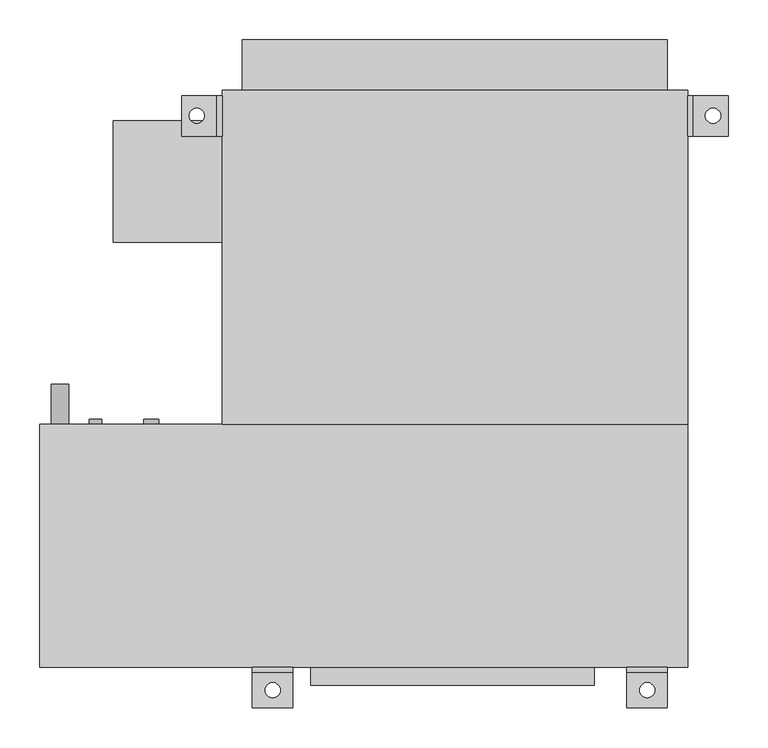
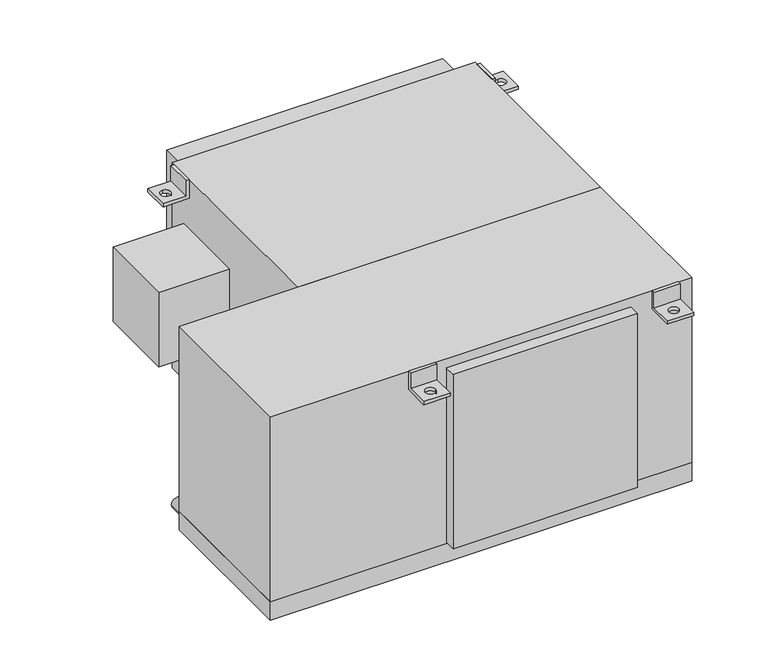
"""IFC4 building model written with IfcOpenShell, lengths in millimetres: proxy geometry, Concealed_High_Capacity_Horizontal_Fan_Coil_Unit_With_Plenum_-_42DCA_-_CARRIER_-_4-Pipe_ValveEnclosure_LH_2022 : Size 06 - 277v/60Hz/1Ph - 6/2 Coil."""

from ifc_helpers import new_model, si_unit, point, frame, frame_2d, origin, place, context, project, spatial, polyline, circle_curve, trimmed, segment, composite_curve, outline, extrude, source, transform, mapped, element, save
from ifc_brep_helpers import plane_surface, revolved_surface, advanced_brep


def mechanical_equipment_28140981(model_context):
    return source(origin(), model_context, "Body", "SolidModel", [
        advanced_brep(
        [(419.1, -390.525, 0.0), (419.1, -396.875, 0.0), (419.1, -396.875, -31.75), (419.1, -441.325, -31.75), (419.1, -441.325, -38.1), (419.1, -390.525, -38.1), (368.3, -390.525, 0.0), (368.3, -390.525, -38.1), (368.3, -441.325, -38.1), (368.3, -441.325, -31.75), (368.3, -396.875, -31.75), (368.3, -396.875, 0.0), (384.175, -419.1, -31.75), (403.225, -419.1, -31.75), (403.225, -419.1, -38.1), (384.175, -419.1, -38.1)],
        [
            (0, 1),
            (1, 2),
            (2, 3),
            (3, 4),
            (4, 5),
            (5, 0),
            (6, 7),
            (7, 8),
            (8, 9),
            (9, 10),
            (10, 11),
            (11, 6),
            (0, 6),
            (11, 1),
            (10, 2),
            (9, 3),
            (12, 13, circle_curve(frame((393.7, -419.1, -31.75), z_axis=(0.0, 0.0, -1.0), x_axis=(1.0, 0.0, 0.0)), 9.525)),
            (13, 12, circle_curve(frame((393.7, -419.1, -31.75), z_axis=(0.0, 0.0, -1.0), x_axis=(1.0, 0.0, 0.0)), 9.525)),
            (8, 4),
            (7, 5),
            (14, 15, circle_curve(frame((393.7, -419.1, -38.1), z_axis=(0.0, 0.0, 1.0), x_axis=(1.0, 0.0, 0.0)), 9.525)),
            (15, 14, circle_curve(frame((393.7, -419.1, -38.1), z_axis=(0.0, 0.0, 1.0), x_axis=(1.0, 0.0, 0.0)), 9.525)),
            (12, 15),
            (14, 13),
        ],
        [
            plane_surface(frame((419.1, -396.875, 0.0), z_axis=(1.0, 0.0, 0.0), x_axis=(0.0, -1.0, 0.0))),
            plane_surface(frame((368.3, -396.875, 0.0), z_axis=(-1.0, 0.0, 0.0), x_axis=(0.0, 1.0, 0.0))),
            plane_surface(frame((419.1, -390.525, 0.0), z_axis=(0.0, 0.0, 1.0), x_axis=(-1.0, 0.0, 0.0))),
            plane_surface(frame((419.1, -396.875, 0.0), z_axis=(0.0, -1.0, 0.0), x_axis=(-1.0, 0.0, 0.0))),
            plane_surface(frame((419.1, -396.875, -31.75), z_axis=(0.0, 0.0, 1.0), x_axis=(-1.0, 0.0, 0.0))),
            plane_surface(frame((419.1, -441.325, -31.75), z_axis=(0.0, -1.0, 0.0), x_axis=(-1.0, 0.0, 0.0))),
            plane_surface(frame((419.1, -441.325, -38.1), z_axis=(0.0, 0.0, -1.0), x_axis=(-1.0, 0.0, 0.0))),
            plane_surface(frame((419.1, -390.525, -38.1), z_axis=(0.0, 1.0, 0.0), x_axis=(-1.0, 0.0, 0.0))),
            revolved_surface(polyline([(403.22499999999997, -419.1, -38.1), (403.22499999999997, -419.1, -31.75)]), (393.7, -419.1, -31.75), (0.0, 0.0, -1.0)),
        ],
        [
            (0, [[1, 2, 3, 4, 5, 6]]),
            (1, [[7, 8, 9, 10, 11, 12]]),
            (2, [[-1, 13, -12, 14]]),
            (3, [[-2, -14, -11, 15]]),
            (4, [[-3, -15, -10, 16], [17, 18]]),
            (5, [[-4, -16, -9, 19]]),
            (6, [[-5, -19, -8, 20], [21, 22]]),
            (7, [[-6, -20, -7, -13]]),
            (8, [[23, -21, 24, -17]]),
            (8, [[-23, -18, -24, -22]]),
        ],
    ),
        advanced_brep(
        [(-50.8, -390.525, -38.1), (-50.8, -390.525, 0.0), (-50.8, -396.875, 0.0), (-50.8, -396.875, -31.75), (-50.8, -441.325, -31.75), (-50.8, -441.325, -38.1), (-101.6, -390.525, -38.1), (-101.6, -441.325, -38.1), (-101.6, -441.325, -31.75), (-101.6, -396.875, -31.75), (-101.6, -396.875, 0.0), (-101.6, -390.525, 0.0), (-85.725, -419.1, -31.75), (-66.675, -419.1, -31.75), (-66.675, -419.1, -38.1), (-85.725, -419.1, -38.1)],
        [
            (0, 1),
            (1, 2),
            (2, 3),
            (3, 4),
            (4, 5),
            (5, 0),
            (6, 7),
            (7, 8),
            (8, 9),
            (9, 10),
            (10, 11),
            (11, 6),
            (0, 6),
            (11, 1),
            (10, 2),
            (9, 3),
            (8, 4),
            (12, 13, circle_curve(frame((-76.2, -419.1, -31.75), z_axis=(0.0, 0.0, -1.0), x_axis=(1.0, 0.0, 0.0)), 9.525)),
            (13, 12, circle_curve(frame((-76.2, -419.1, -31.75), z_axis=(0.0, 0.0, -1.0), x_axis=(1.0, 0.0, 0.0)), 9.525)),
            (7, 5),
            (14, 15, circle_curve(frame((-76.2, -419.1, -38.1), z_axis=(0.0, 0.0, 1.0), x_axis=(1.0, 0.0, 0.0)), 9.525)),
            (15, 14, circle_curve(frame((-76.2, -419.1, -38.1), z_axis=(0.0, 0.0, 1.0), x_axis=(1.0, 0.0, 0.0)), 9.525)),
            (12, 15),
            (14, 13),
        ],
        [
            plane_surface(frame((-50.8, -390.525, -38.1), z_axis=(1.0, 0.0, 0.0), x_axis=(0.0, 0.0, 1.0))),
            plane_surface(frame((-101.6, -390.525, -38.1), z_axis=(-1.0, 0.0, 0.0), x_axis=(0.0, 0.0, -1.0))),
            plane_surface(frame((-50.8, -390.525, -38.1), z_axis=(0.0, 1.0, 0.0), x_axis=(-1.0, 0.0, 0.0))),
            plane_surface(frame((-50.8, -390.525, 0.0), z_axis=(0.0, 0.0, 1.0), x_axis=(-1.0, 0.0, 0.0))),
            plane_surface(frame((-50.8, -396.875, 0.0), z_axis=(0.0, -1.0, 0.0), x_axis=(-1.0, 0.0, 0.0))),
            plane_surface(frame((-50.8, -396.875, -31.75), z_axis=(0.0, 0.0, 1.0), x_axis=(-1.0, 0.0, 0.0))),
            plane_surface(frame((-50.8, -441.325, -31.75), z_axis=(0.0, -1.0, 0.0), x_axis=(-1.0, 0.0, 0.0))),
            plane_surface(frame((-50.8, -441.325, -38.1), z_axis=(0.0, 0.0, -1.0), x_axis=(-1.0, 0.0, 0.0))),
            revolved_surface(polyline([(-66.675, -419.1, -38.1), (-66.675, -419.1, -31.75)]), (-76.2, -419.1, -31.75), (0.0, 0.0, -1.0)),
        ],
        [
            (0, [[1, 2, 3, 4, 5, 6]]),
            (1, [[7, 8, 9, 10, 11, 12]]),
            (2, [[-1, 13, -12, 14]]),
            (3, [[-2, -14, -11, 15]]),
            (4, [[-3, -15, -10, 16]]),
            (5, [[-4, -16, -9, 17], [18, 19]]),
            (6, [[-5, -17, -8, 20]]),
            (7, [[-6, -20, -7, -13], [21, 22]]),
            (8, [[23, -21, 24, -18]]),
            (8, [[-23, -19, -24, -22]]),
        ],
    ),
        extrude(outline(composite_curve([segment(trimmed(circle_curve(frame_2d((-400.05, -342.9)), 11.1125), [point((-400.05, -354.0125))], [point((-400.05, -331.7875))], False, "CARTESIAN"), True, "CONTINUOUS"), segment(trimmed(circle_curve(frame_2d((-400.05, -342.9)), 11.1125), [point((-400.05, -331.7875))], [point((-400.05, -354.0125))], False, "CARTESIAN"), True, "CONTINUOUS")], self_intersect=False)), frame((0.0, -85.725, 0.0), z_axis=(0.0, 1.0, 0.0), x_axis=(0.0, 0.0, 1.0)), (0.0, 0.0, 1.0), 50.8),
        extrude(outline(composite_curve([segment(trimmed(circle_curve(frame_2d((-44.45, -228.6)), 9.525), [point((-44.45, -238.125))], [point((-44.45, -219.075))], False, "CARTESIAN"), True, "CONTINUOUS"), segment(trimmed(circle_curve(frame_2d((-44.45, -228.6)), 9.525), [point((-44.45, -219.075))], [point((-44.45, -238.125))], False, "CARTESIAN"), True, "CONTINUOUS")], self_intersect=False)), frame((0.0, -85.725, 0.0), z_axis=(0.0, 1.0, 0.0), x_axis=(0.0, 0.0, 1.0)), (0.0, 0.0, 1.0), 6.35),
        extrude(outline(composite_curve([segment(trimmed(circle_curve(frame_2d((-276.225, -228.6)), 9.525), [point((-276.225, -238.125))], [point((-276.225, -219.075))], False, "CARTESIAN"), True, "CONTINUOUS"), segment(trimmed(circle_curve(frame_2d((-276.225, -228.6)), 9.525), [point((-276.225, -219.075))], [point((-276.225, -238.125))], False, "CARTESIAN"), True, "CONTINUOUS")], self_intersect=False)), frame((0.0, -85.725, 0.0), z_axis=(0.0, 1.0, 0.0), x_axis=(0.0, 0.0, 1.0)), (0.0, 0.0, 1.0), 6.35),
        extrude(outline(composite_curve([segment(trimmed(circle_curve(frame_2d((-69.85, -298.45)), 7.9375), [point((-69.85, -306.3875))], [point((-69.85, -290.5125))], False, "CARTESIAN"), True, "CONTINUOUS"), segment(trimmed(circle_curve(frame_2d((-69.85, -298.45)), 7.9375), [point((-69.85, -290.5125))], [point((-69.85, -306.3875))], False, "CARTESIAN"), True, "CONTINUOUS")], self_intersect=False)), frame((0.0, -85.725, 0.0), z_axis=(0.0, 1.0, 0.0), x_axis=(0.0, 0.0, 1.0)), (0.0, 0.0, 1.0), 6.35),
        extrude(outline(composite_curve([segment(trimmed(circle_curve(frame_2d((-285.75, -298.45)), 7.9375), [point((-285.75, -306.3875))], [point((-285.75, -290.5125))], False, "CARTESIAN"), True, "CONTINUOUS"), segment(trimmed(circle_curve(frame_2d((-285.75, -298.45)), 7.9375), [point((-285.75, -290.5125))], [point((-285.75, -306.3875))], False, "CARTESIAN"), True, "CONTINUOUS")], self_intersect=False)), frame((0.0, -85.725, 0.0), z_axis=(0.0, 1.0, 0.0), x_axis=(0.0, 0.0, 1.0)), (0.0, 0.0, 1.0), 6.35),
        advanced_brep(
        [(-139.7, 327.025, -38.1), (-190.5, 327.025, -38.1), (-190.5, 327.025, -31.75), (-146.05, 327.025, -31.75), (-146.05, 327.025, 0.0), (-139.7, 327.025, 0.0), (-139.7, 276.225, -38.1), (-139.7, 276.225, 0.0), (-146.05, 276.225, 0.0), (-146.05, 276.225, -31.75), (-190.5, 276.225, -31.75), (-190.5, 276.225, -38.1), (-171.45, 292.1, -38.1), (-171.45, 311.15, -38.1), (-171.45, 311.15, -31.75), (-171.45, 292.1, -31.75)],
        [
            (0, 1),
            (1, 2),
            (2, 3),
            (3, 4),
            (4, 5),
            (5, 0),
            (6, 7),
            (7, 8),
            (8, 9),
            (9, 10),
            (10, 11),
            (11, 6),
            (0, 6),
            (11, 1),
            (12, 13, circle_curve(frame((-171.45, 301.625, -38.1), z_axis=(0.0, 0.0, 1.0), x_axis=(0.0, -1.0, 0.0)), 9.525)),
            (13, 12, circle_curve(frame((-171.45, 301.625, -38.1), z_axis=(0.0, 0.0, 1.0), x_axis=(0.0, -1.0, 0.0)), 9.525)),
            (10, 2),
            (9, 3),
            (14, 15, circle_curve(frame((-171.45, 301.625, -31.75), z_axis=(0.0, 0.0, -1.0), x_axis=(0.0, -1.0, 0.0)), 9.525)),
            (15, 14, circle_curve(frame((-171.45, 301.625, -31.75), z_axis=(0.0, 0.0, -1.0), x_axis=(0.0, -1.0, 0.0)), 9.525)),
            (8, 4),
            (7, 5),
            (14, 13),
            (12, 15),
        ],
        [
            plane_surface(frame((-139.7, 327.025, -38.1), z_axis=(0.0, 1.0, 0.0), x_axis=(-1.0, 0.0, 0.0))),
            plane_surface(frame((-139.7, 276.225, -38.1), z_axis=(0.0, -1.0, 0.0), x_axis=(1.0, 0.0, 0.0))),
            plane_surface(frame((-139.7, 327.025, -38.1), z_axis=(0.0, 0.0, -1.0), x_axis=(0.0, -1.0, 0.0))),
            plane_surface(frame((-190.5, 327.025, -38.1), z_axis=(-1.0, 0.0, 0.0), x_axis=(0.0, -1.0, 0.0))),
            plane_surface(frame((-190.5, 327.025, -31.75), z_axis=(0.0, 0.0, 1.0), x_axis=(0.0, -1.0, 0.0))),
            plane_surface(frame((-146.05, 327.025, -31.75), z_axis=(-1.0, 0.0, 0.0), x_axis=(0.0, -1.0, 0.0))),
            plane_surface(frame((-146.05, 327.025, 0.0), z_axis=(0.0, 0.0, 1.0), x_axis=(0.0, -1.0, 0.0))),
            plane_surface(frame((-139.7, 327.025, 0.0), z_axis=(1.0, 0.0, 0.0), x_axis=(0.0, -1.0, 0.0))),
            revolved_surface(polyline([(-171.45, 292.1, -38.1), (-171.45, 292.1, -31.75)]), (-171.45, 301.625, -31.75), (0.0, 0.0, -1.0)),
        ],
        [
            (0, [[1, 2, 3, 4, 5, 6]]),
            (1, [[7, 8, 9, 10, 11, 12]]),
            (2, [[-1, 13, -12, 14], [15, 16]]),
            (3, [[-2, -14, -11, 17]]),
            (4, [[-3, -17, -10, 18], [19, 20]]),
            (5, [[-4, -18, -9, 21]]),
            (6, [[-5, -21, -8, 22]]),
            (7, [[-6, -22, -7, -13]]),
            (8, [[23, -15, 24, -19]]),
            (8, [[-23, -20, -24, -16]]),
        ],
    ),
        advanced_brep(
        [(444.5, 327.025, -38.1), (444.5, 327.025, 0.0), (450.85, 327.025, 0.0), (450.85, 327.025, -31.75), (495.3, 327.025, -31.75), (495.3, 327.025, -38.1), (444.5, 276.225, -38.1), (495.3, 276.225, -38.1), (495.3, 276.225, -31.75), (450.85, 276.225, -31.75), (450.85, 276.225, 0.0), (444.5, 276.225, 0.0), (476.25, 311.15, -31.75), (476.25, 292.1, -31.75), (476.25, 292.1, -38.1), (476.25, 311.15, -38.1)],
        [
            (0, 1),
            (1, 2),
            (2, 3),
            (3, 4),
            (4, 5),
            (5, 0),
            (6, 7),
            (7, 8),
            (8, 9),
            (9, 10),
            (10, 11),
            (11, 6),
            (0, 6),
            (11, 1),
            (10, 2),
            (9, 3),
            (8, 4),
            (12, 13, circle_curve(frame((476.25, 301.625, -31.75), z_axis=(0.0, 0.0, -1.0), x_axis=(0.0, -1.0, 0.0)), 9.525)),
            (13, 12, circle_curve(frame((476.25, 301.625, -31.75), z_axis=(0.0, 0.0, -1.0), x_axis=(0.0, -1.0, 0.0)), 9.525)),
            (7, 5),
            (14, 15, circle_curve(frame((476.25, 301.625, -38.1), z_axis=(0.0, 0.0, 1.0), x_axis=(0.0, -1.0, 0.0)), 9.525)),
            (15, 14, circle_curve(frame((476.25, 301.625, -38.1), z_axis=(0.0, 0.0, 1.0), x_axis=(0.0, -1.0, 0.0)), 9.525)),
            (12, 15),
            (14, 13),
        ],
        [
            plane_surface(frame((-139.7, 327.025, -38.1), z_axis=(0.0, 1.0, 0.0), x_axis=(-1.0, 0.0, 0.0))),
            plane_surface(frame((-139.7, 276.225, -38.1), z_axis=(0.0, -1.0, 0.0), x_axis=(1.0, 0.0, 0.0))),
            plane_surface(frame((444.5, 327.025, -38.1), z_axis=(-1.0, 0.0, 0.0), x_axis=(0.0, -1.0, 0.0))),
            plane_surface(frame((444.5, 327.025, 0.0), z_axis=(0.0, 0.0, 1.0), x_axis=(0.0, -1.0, 0.0))),
            plane_surface(frame((450.85, 327.025, 0.0), z_axis=(1.0, 0.0, 0.0), x_axis=(0.0, -1.0, 0.0))),
            plane_surface(frame((450.85, 327.025, -31.75), z_axis=(0.0, 0.0, 1.0), x_axis=(0.0, -1.0, 0.0))),
            plane_surface(frame((495.3, 327.025, -31.75), z_axis=(1.0, 0.0, 0.0), x_axis=(0.0, -1.0, 0.0))),
            plane_surface(frame((495.3, 327.025, -38.1), z_axis=(0.0, 0.0, -1.0), x_axis=(0.0, -1.0, 0.0))),
            revolved_surface(polyline([(476.25, 292.1, -38.1), (476.25, 292.1, -31.75)]), (476.25, 301.625, -31.75), (0.0, 0.0, -1.0)),
        ],
        [
            (0, [[1, 2, 3, 4, 5, 6]]),
            (1, [[7, 8, 9, 10, 11, 12]]),
            (2, [[-1, 13, -12, 14]]),
            (3, [[-2, -14, -11, 15]]),
            (4, [[-3, -15, -10, 16]]),
            (5, [[-4, -16, -9, 17], [18, 19]]),
            (6, [[-5, -17, -8, 20]]),
            (7, [[-6, -20, -7, -13], [21, 22]]),
            (8, [[23, -21, 24, -18]]),
            (8, [[-23, -19, -24, -22]]),
        ],
    ),
        extrude(outline(polyline([(-114.3, 396.875), (419.1, 396.875), (419.1, 333.375), (-114.3, 333.375), (-114.3, 396.875)])), frame((0.0, 0.0, -377.825), z_axis=(0.0, 0.0, 1.0), x_axis=(1.0, 0.0, 0.0)), (0.0, 0.0, 1.0), 355.6),
        extrude(outline(polyline([(-276.225, 142.875), (-276.225, 295.275), (-139.7, 295.275), (-139.7, 142.875), (-276.225, 142.875)])), frame((0.0, 0.0, -254.0), z_axis=(0.0, 0.0, 1.0), x_axis=(1.0, 0.0, 0.0)), (0.0, 0.0, 1.0), 152.4),
        extrude(outline(polyline([(327.025, -412.75), (-28.575, -412.75), (-28.575, -390.525), (327.025, -390.525), (327.025, -412.75)])), frame((0.0, 0.0, -374.65), z_axis=(0.0, 0.0, 1.0), x_axis=(1.0, 0.0, 0.0)), (0.0, 0.0, 1.0), 355.6),
        extrude(outline(polyline([(444.5, -85.725), (-139.7, -85.725), (-139.7, 333.375), (444.5, 333.375), (444.5, -85.725)])), frame((0.0, 0.0, -419.1), z_axis=(0.0, 0.0, 1.0), x_axis=(1.0, 0.0, 0.0)), (0.0, 0.0, 1.0), 419.1),
        extrude(outline(polyline([(444.5, -85.725), (444.5, -390.525), (-368.3, -390.525), (-368.3, -85.725), (444.5, -85.725)])), frame((0.0, 0.0, -377.825), z_axis=(0.0, 0.0, 1.0), x_axis=(1.0, 0.0, 0.0)), (0.0, 0.0, 1.0), 377.825),
        extrude(outline(polyline([(444.5, -85.725), (444.5, -390.525), (-368.3, -390.525), (-368.3, -85.725), (444.5, -85.725)])), frame((0.0, 0.0, -415.925), z_axis=(0.0, 0.0, 1.0), x_axis=(1.0, 0.0, 0.0)), (0.0, 0.0, 1.0), 38.1),
    ])


if __name__ == "__main__":
    model = new_model("IFC4")
    model_context = context("Model", 3, world=origin())
    ifc_project = project(units=[si_unit("LENGTHUNIT", "METRE", prefix="MILLI")], contexts=[model_context])
    site = spatial("IfcSite", under=ifc_project)
    building = spatial("IfcBuilding", under=site)
    placement = place(None, origin())
    mechanical_equipment_shape = mechanical_equipment_28140981(model_context)
    element("IfcBuildingElementProxy", 1, Name="Concealed_High_Capacity_Horizontal_Fan_Coil_Unit_With_Plenum_-_42DCA_-_CARRIER_-_4-Pipe_ValveEnclosure_LH_2022 : Size 06 - 277v/60Hz/1Ph - 6/2 Coil", ObjectType="Concealed_High_Capacity_Horizontal_Fan_Coil_Unit_With_Plenum_-_42DCA_-_CARRIER_-_4-Pipe_ValveEnclosure_LH_2022 : Size 06 - 277v/60Hz/1Ph - 6/2 Coil", at=placement, inside=building, context=model_context, shape_type="MappedRepresentation", body=[
        mapped(mechanical_equipment_shape, transform((0.0, 0.0, 0.0), x_axis=(1.0, 0.0, 0.0), y_axis=(0.0, 1.0, 0.0), z_axis=(0.0, 0.0, 1.0))),
    ])
    save(model, "model.ifc")
